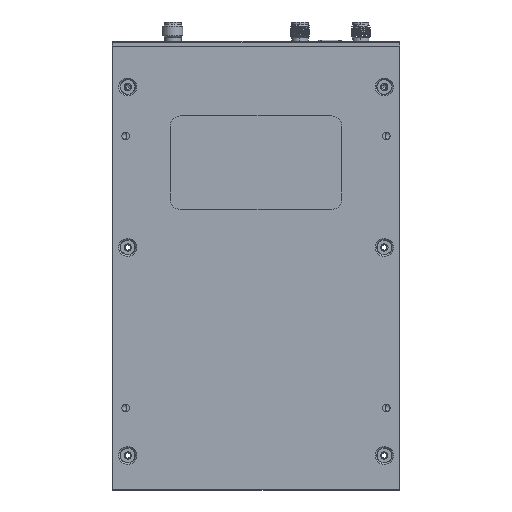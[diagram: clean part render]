
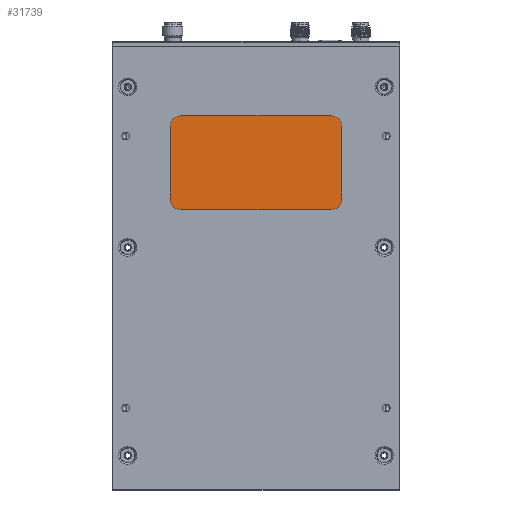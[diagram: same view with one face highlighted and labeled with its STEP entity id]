
A CAD part, front view. The second image highlights one B-rep face of the part: STEP entity #31739.
In plain terms, the highlighted planar face has unit normal (0, -1, 0).
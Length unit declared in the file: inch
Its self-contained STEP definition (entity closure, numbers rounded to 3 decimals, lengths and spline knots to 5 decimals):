
#29185=DIRECTION('',(1.,0.,0.));
#29186=VECTOR('',#29185,1.93);
#29187=CARTESIAN_POINT('',(4.9342,2.29334,-1.14304));
#29188=LINE('',#29187,#29186);
#29189=CARTESIAN_POINT('',(6.8642,2.29334,-1.27804));
#29190=DIRECTION('',(0.,1.,0.));
#29191=DIRECTION('',(0.,0.,1.));
#29192=AXIS2_PLACEMENT_3D('',#29189,#29190,#29191);
#29194=DIRECTION('',(0.,0.,-1.));
#29195=VECTOR('',#29194,0.93);
#29196=CARTESIAN_POINT('',(6.9992,2.29334,-1.27804));
#29197=LINE('',#29196,#29195);
#29198=CARTESIAN_POINT('',(6.8642,2.29334,-2.20804));
#29199=DIRECTION('',(0.,1.,0.));
#29200=DIRECTION('',(1.,0.,0.));
#29201=AXIS2_PLACEMENT_3D('',#29198,#29199,#29200);
#29203=DIRECTION('',(-1.,0.,0.));
#29204=VECTOR('',#29203,1.93);
#29205=CARTESIAN_POINT('',(6.8642,2.29334,-2.34304));
#29206=LINE('',#29205,#29204);
#29207=CARTESIAN_POINT('',(4.9342,2.29334,-2.20804));
#29208=DIRECTION('',(0.,1.,0.));
#29209=DIRECTION('',(0.,0.,-1.));
#29210=AXIS2_PLACEMENT_3D('',#29207,#29208,#29209);
#29212=DIRECTION('',(0.,0.,1.));
#29213=VECTOR('',#29212,0.93);
#29214=CARTESIAN_POINT('',(4.7992,2.29334,-2.20804));
#29215=LINE('',#29214,#29213);
#29216=CARTESIAN_POINT('',(4.9342,2.29334,-1.27804));
#29217=DIRECTION('',(0.,1.,0.));
#29218=DIRECTION('',(-1.,0.,0.));
#29219=AXIS2_PLACEMENT_3D('',#29216,#29217,#29218);
#29815=CARTESIAN_POINT('',(6.8642,2.29334,-1.14304));
#29816=CARTESIAN_POINT('',(4.9342,2.29334,-1.14304));
#29817=VERTEX_POINT('',#29815);
#29818=VERTEX_POINT('',#29816);
#29819=CARTESIAN_POINT('',(4.7992,2.29334,-1.27804));
#29820=VERTEX_POINT('',#29819);
#29821=CARTESIAN_POINT('',(4.7992,2.29334,-2.20804));
#29822=VERTEX_POINT('',#29821);
#29823=CARTESIAN_POINT('',(4.9342,2.29334,-2.34304));
#29824=VERTEX_POINT('',#29823);
#29825=CARTESIAN_POINT('',(6.8642,2.29334,-2.34304));
#29826=VERTEX_POINT('',#29825);
#29827=CARTESIAN_POINT('',(6.9992,2.29334,-2.20804));
#29828=VERTEX_POINT('',#29827);
#29829=CARTESIAN_POINT('',(6.9992,2.29334,-1.27804));
#29830=VERTEX_POINT('',#29829);
#31716=CARTESIAN_POINT('',(5.8992,2.29334,-3.0925));
#31717=DIRECTION('',(0.,-1.,0.));
#31718=DIRECTION('',(-1.,0.,0.));
#31719=AXIS2_PLACEMENT_3D('',#31716,#31717,#31718);
#31720=PLANE('',#31719);
#31722=ORIENTED_EDGE('',*,*,#31721,.T.);
#31724=ORIENTED_EDGE('',*,*,#31723,.T.);
#31726=ORIENTED_EDGE('',*,*,#31725,.T.);
#31728=ORIENTED_EDGE('',*,*,#31727,.T.);
#31730=ORIENTED_EDGE('',*,*,#31729,.T.);
#31732=ORIENTED_EDGE('',*,*,#31731,.T.);
#31734=ORIENTED_EDGE('',*,*,#31733,.T.);
#31736=ORIENTED_EDGE('',*,*,#31735,.T.);
#31737=EDGE_LOOP('',(#31722,#31724,#31726,#31728,#31730,#31732,#31734,#31736));
#31738=FACE_OUTER_BOUND('',#31737,.F.);
#31739=ADVANCED_FACE('',(#31738),#31720,.T.);
#29193=CIRCLE('',#29192,0.135);
#29202=CIRCLE('',#29201,0.135);
#29211=CIRCLE('',#29210,0.135);
#29220=CIRCLE('',#29219,0.135);
#31721=EDGE_CURVE('',#29818,#29817,#29188,.T.);
#31723=EDGE_CURVE('',#29817,#29830,#29193,.T.);
#31725=EDGE_CURVE('',#29830,#29828,#29197,.T.);
#31727=EDGE_CURVE('',#29828,#29826,#29202,.T.);
#31729=EDGE_CURVE('',#29826,#29824,#29206,.T.);
#31731=EDGE_CURVE('',#29824,#29822,#29211,.T.);
#31733=EDGE_CURVE('',#29822,#29820,#29215,.T.);
#31735=EDGE_CURVE('',#29820,#29818,#29220,.T.);
